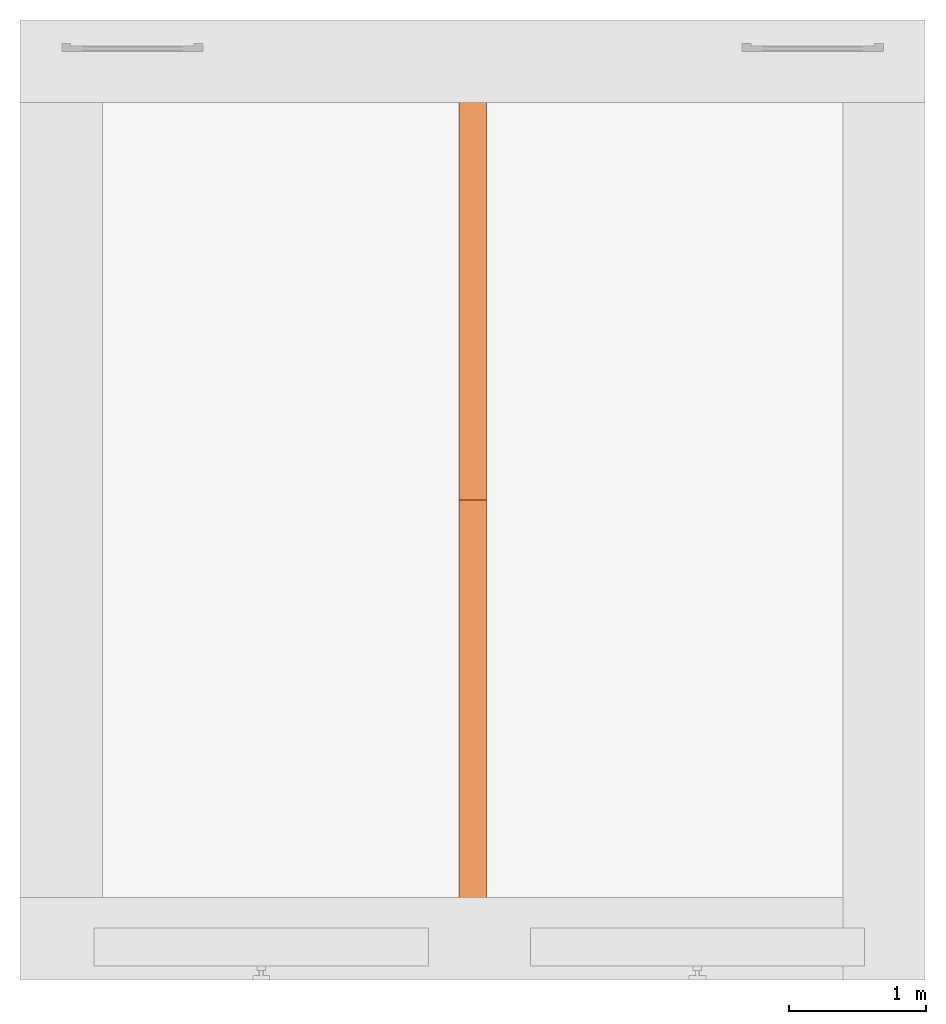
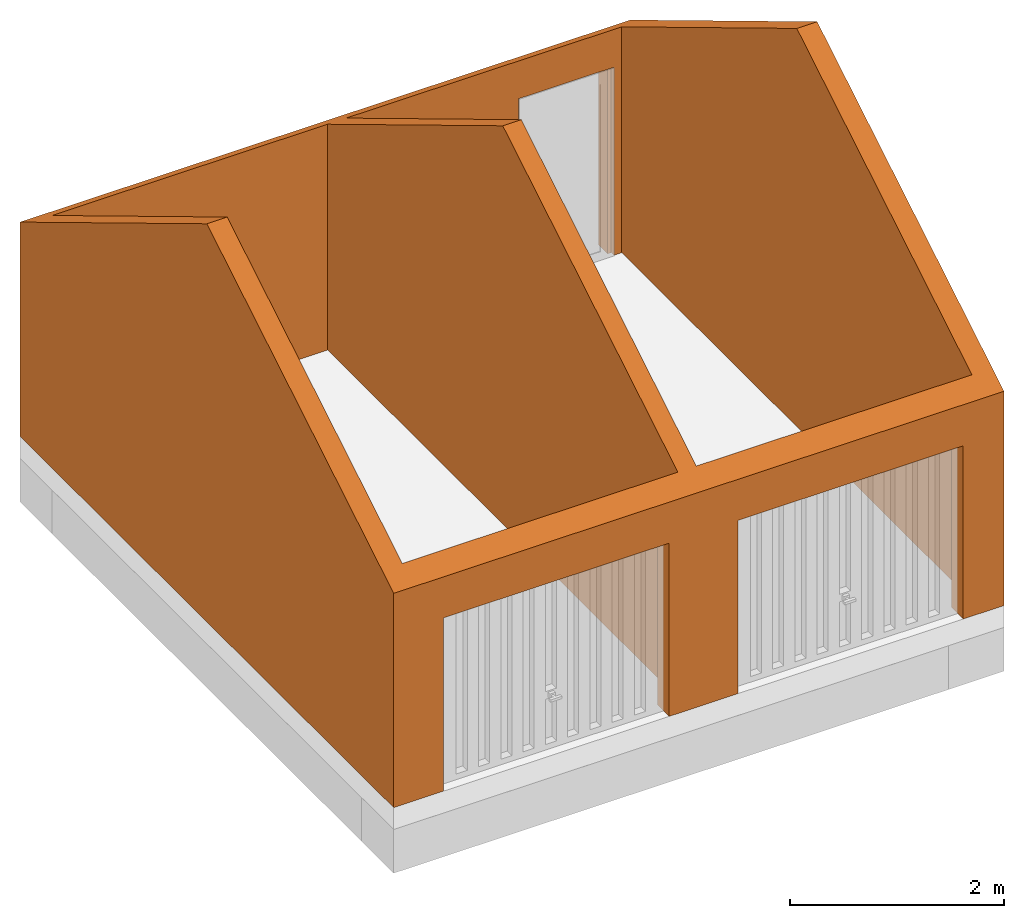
# One storey, part 5 of 6: 1 proxy.
"""IFC2X3 building model written with IfcOpenShell, lengths in millimetres."""

from ifc_helpers import new_model, entity, si_unit, converted_unit, direction, origin, origin_with_axes, place, context, project, spatial, faceted_brep, element, save


model = new_model("IFC2X3")

# Units and contexts
model_context = context("Model", 3, precision=1e-05, world=origin(), true_north=direction((0.0, 1.0, 0.0)))
ifc_project = project(units=[si_unit("LENGTHUNIT", "METRE", prefix="MILLI"), si_unit("AREAUNIT", "SQUARE_METRE"), si_unit("VOLUMEUNIT", "CUBIC_METRE"), converted_unit("PLANEANGLEUNIT", "DEGREE", entity("IfcPlaneAngleMeasure", 0.01745), si_unit("PLANEANGLEUNIT", "RADIAN"), dimensions=[0, 0, 0, 0, 0, 0, 0]), si_unit("SOLIDANGLEUNIT", "STERADIAN"), si_unit("MASSUNIT", "GRAM"), si_unit("TIMEUNIT", "SECOND"), si_unit("THERMODYNAMICTEMPERATUREUNIT", "DEGREE_CELSIUS"), si_unit("LUMINOUSINTENSITYUNIT", "LUMEN")], contexts=[model_context])

# Site, building, storey
site_placement = place(None, origin_with_axes())
site = spatial("IfcSite", under=ifc_project, at=site_placement, Name="Default Site", CompositionType="ELEMENT")
building_placement = place(site_placement, origin_with_axes())
building = spatial("IfcBuilding", under=site, at=building_placement, Name="Default Building", CompositionType="ELEMENT")
storey_placement = place(building_placement, origin_with_axes())
storey = spatial("IfcBuildingStorey", under=building, at=storey_placement, Name="soubassement", CompositionType="ELEMENT", Elevation=0.0)

# Proxy
proxy_placement = place(storey_placement, origin_with_axes())
element("IfcBuildingElementProxy", 1, at=proxy_placement, inside=storey, Name="Object", context=model_context, shape_type="Brep", body=[
    faceted_brep([(-3280.064822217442, -14143.58332180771, 2149.9999834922), (-3240.064860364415, -14143.58332180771, 2110.000021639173), (-2250.064970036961, -14143.58332180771, 2149.9999834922), (-2290.065051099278, -14143.58332180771, 7.334057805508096e-06), (-2290.065051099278, -14143.58332180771, 2110.000021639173), (-3240.064860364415, -13973.58332374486, 2110.000021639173), (-3240.064860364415, -14143.58332180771, 7.334057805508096e-06), (-3240.064860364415, -13973.58332374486, 7.334057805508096e-06), (-3280.064822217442, -14143.58332180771, 7.334057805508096e-06), (1719.935177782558, -13973.58332374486, 2110.000021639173), (2669.934987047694, -14143.58332180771, 2110.000021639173), (1719.935177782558, -14143.58332180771, 2110.000021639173), (-3585.064888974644, -14193.58332255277, 7.334057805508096e-06), (-3585.064888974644, -13973.58332374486, 2450.000055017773), (-3585.064888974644, -13973.58332374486, 7.334057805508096e-06), (-2290.065051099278, -13973.58332374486, 2110.000021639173), (2669.934987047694, -13973.58332374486, 2110.000021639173), (1719.935177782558, -13973.58332374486, 7.334057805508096e-06), (1719.935177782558, -14143.58332180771, 7.334057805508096e-06), (-2290.065051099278, -13973.58332374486, 7.334057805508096e-06), (-2250.064970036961, -14143.58332180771, 7.334057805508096e-06), (2709.934948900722, -14193.58332255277, 2149.9999834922), (1679.935096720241, -14143.58332180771, 2149.9999834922), (2709.934948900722, -14143.58332180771, 2149.9999834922), (2669.934987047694, -13973.58332374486, 7.334057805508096e-06), (2669.934987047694, -14143.58332180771, 7.334057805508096e-06), (1679.935096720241, -14143.58332180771, 7.334057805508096e-06), (2709.934948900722, -14193.58332255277, 7.334057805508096e-06), (-3280.064822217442, -14193.58332255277, 2149.9999834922), (-3365.064937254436, -14193.58333715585, 2270.446331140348), (-3365.064937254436, -14193.58333715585, 1550.818982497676), (2709.934948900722, -14143.58332180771, 7.334057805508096e-06), (3014.935015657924, -13973.58332374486, 7.334057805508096e-06), (3014.935015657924, -13973.58332374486, 2450.000055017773), (2794.934987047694, -14193.58332255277, 2582.189328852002), (-185.0649351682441, -14193.58332255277, 2582.189328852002), (-185.0649351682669, -14193.5833371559, 2370.185336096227), (3014.935062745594, -17473.58332374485, 4553.012268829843), (3014.935015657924, -14193.58332255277, 2582.189328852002), (2794.935063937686, -14193.5832703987, 2270.446331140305), (2794.935063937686, -14193.5832703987, 719.6273559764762), (-2250.064970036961, -14193.58332255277, 7.334057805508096e-06), (-385.0649381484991, -14193.58335175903, -0.0001022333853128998), (-385.0649381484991, -14193.5833371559, 1020.292616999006), (2794.935063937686, -14193.58321824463, -0.0001022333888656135), (-3365.064860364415, -14193.58332255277, 2582.189328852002), (-385.0649381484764, -14193.58332255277, 2582.189328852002), (2794.935063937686, -14193.5832703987, 2564.130138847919), (2794.935063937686, -14193.5832703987, 2510.967125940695), (-2250.064970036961, -14193.58332255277, 2149.9999834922), (-3365.064937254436, -14193.58335175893, -0.0001022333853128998), (-3280.064822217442, -14193.58332255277, 7.334057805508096e-06), (2794.935063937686, -14193.5832703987, 2567.085017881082), (-3585.064993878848, -20753.58332374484, 2582.189328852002), (-3585.064888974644, -14193.58332255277, 2582.189328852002), (-3365.064937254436, -17473.58332314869, 4553.012268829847), (1679.935096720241, -14193.58332255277, 7.334057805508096e-06), (-185.0649351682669, -14193.58335175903, -0.0001022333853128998), (-385.0649381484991, -14193.5833371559, 2149.9999834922), (3014.935062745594, -20973.58342805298, -0.0001022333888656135), (3014.935015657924, -14193.58332255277, 7.334057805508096e-06), (1679.935096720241, -14193.58332255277, 2149.9999834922), (135.7350482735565, -20973.58332255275, 1981.199987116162), (135.7350482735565, -20973.58332255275, 7.334057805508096e-06), (135.7350482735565, -20753.58332374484, 7.334057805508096e-06), (2574.134959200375, -20973.58332255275, 1981.199987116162), (135.7350482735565, -20753.58332374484, 1981.199987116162), (2574.134959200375, -20753.58332374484, 1981.199987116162), (2574.134959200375, -20753.58332374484, 7.334057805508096e-06), (2794.93512056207, -20753.58332374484, 7.334057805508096e-06), (2794.93512056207, -20973.58332255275, 7.334057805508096e-06), (2574.134959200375, -20973.58332255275, 7.334057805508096e-06), (-3585.064993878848, -20973.58332255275, 7.334057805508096e-06), (-3044.264899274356, -20973.58332255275, 1981.199987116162), (-3585.064993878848, -20973.58332255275, 2450.000055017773), (-3044.264899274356, -20973.58332255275, 7.334057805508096e-06), (-605.8649436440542, -20973.58332255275, 1981.199987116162), (2794.93512056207, -20973.58332255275, 2450.000055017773), (-385.0649368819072, -20753.58332374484, 2582.189328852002), (-3365.064965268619, -20753.58332374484, 2582.189328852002), (-385.0649381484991, -20753.58330914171, 589.8718670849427), (-257.2085892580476, -20753.58330914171, 931.4427929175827), (-338.5161179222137, -20753.58330914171, 1981.199987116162), (-385.0649381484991, -20753.58330914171, 1981.199987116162), (-3585.064993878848, -20753.58332374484, 7.334057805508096e-06), (-3585.064936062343, -17473.58332314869, 4553.012268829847), (-185.0649432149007, -20753.58332374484, 2582.189328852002), (3014.935062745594, -20973.58342805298, 2450.000005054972), (2794.93512056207, -20753.58332374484, 2582.189328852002), (2794.935092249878, -20753.58332374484, 2454.289336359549), (2794.935092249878, -20753.58332374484, 83.78779285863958), (-3365.064937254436, -20753.58330914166, 2560.722630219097), (-3365.064937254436, -20753.58330914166, 2546.654581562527), (-3365.064937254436, -20753.58330914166, 2337.70399955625), (-3365.064937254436, -20753.58330914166, 1531.742402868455), (-3365.064937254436, -20753.58329453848, -0.0001022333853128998), (-3044.264899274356, -20753.58332374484, 7.334057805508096e-06), (-3365.064937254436, -20753.58330914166, 2537.809063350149), (-605.8649436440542, -20973.58332255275, 7.334057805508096e-06), (-605.8649436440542, -20753.58332374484, 7.334057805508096e-06), (-185.0649351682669, -20753.58329453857, -0.0001022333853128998), (-385.0649381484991, -20753.58329453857, -0.0001022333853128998), (-605.8649436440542, -20753.58332374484, 1981.199987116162), (-3044.264899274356, -20753.58332374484, 1981.199987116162), (-202.1724062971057, -14193.583323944, 2361.315685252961), (-385.0649381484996, -14193.58332472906, 2348.75902033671), (-385.0649381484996, -14193.58332751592, 2303.09269860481), (-205.5405811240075, -14193.58332658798, 2317.829358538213), (-185.0649351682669, -20753.58330914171, 1124.176082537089), (-385.0649381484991, -20753.58330805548, 2065.320401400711), (-385.0649381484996, -20753.5833055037, 2269.946514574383), (-185.0649351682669, -20753.58330914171, 1981.199987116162), (-185.0649351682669, -20753.58330847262, 2033.016093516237), (-185.0649351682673, -20753.58330574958, 2250.431338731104), (-185.0649351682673, -14193.58332648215, 2319.510147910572), (-185.0649351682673, -14193.58332387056, 2362.490215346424), (-385.0649381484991, -14193.5833371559, 2355.956879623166), (-201.5764014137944, -14193.5833371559, 2369.010672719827), (-185.0649351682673, -14193.5833371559, 2149.9999834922), (-218.5395791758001, -14193.5833371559, 2149.9999834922), (-302.5428433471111, -14193.5833371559, 1065.438291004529), (-185.0649351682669, -14193.5833371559, 1129.707373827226), (-344.524371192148, -20753.58330814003, 2058.77222671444), (-360.6964233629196, -20753.58330553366, 2267.568735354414), (-185.0649351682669, -17473.58332314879, 4553.012268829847), (-385.0649381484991, -17473.58332314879, 4553.012268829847), (2794.935092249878, -20760.85832600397, 81.01707996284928), (2794.935063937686, -17473.58332374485, 4553.012268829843), (-3388.763990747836, -14193.58333715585, 2304.028220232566)], [[[0, 1, 2]], [[3, 2, 4]], [[5, 6, 7]], [[1, 8, 6]], [[9, 10, 11]], [[12, 13, 14]], [[4, 5, 15]], [[9, 16, 10]], [[8, 1, 0]], [[17, 11, 18]], [[19, 3, 4]], [[4, 2, 1]], [[17, 9, 11]], [[19, 4, 15]], [[4, 1, 5]], [[2, 3, 20]], [[5, 1, 6]], [[21, 22, 23]], [[24, 10, 16]], [[24, 25, 10]], [[23, 11, 10]], [[18, 22, 26]], [[27, 21, 23]], [[28, 29, 30]], [[31, 10, 25]], [[32, 16, 33]], [[27, 23, 31]], [[34, 35, 36]], [[33, 34, 37, 38]], [[39, 38, 40]], [[41, 42, 43]], [[40, 38, 44]], [[32, 33, 38]], [[13, 45, 33]], [[33, 45, 46]], [[38, 47, 48]], [[41, 49, 2]], [[3, 19, 20]], [[28, 30, 50, 51]], [[19, 18, 26, 20]], [[32, 27, 31]], [[17, 15, 9]], [[33, 35, 34]], [[33, 46, 35]], [[20, 26, 41]], [[18, 19, 17]], [[22, 11, 23]], [[52, 38, 47]], [[22, 18, 11]], [[9, 13, 16]], [[23, 10, 31]], [[5, 13, 15]], [[15, 13, 9]], [[13, 12, 53, 54]], [[24, 31, 25]], [[15, 17, 19]], [[14, 8, 12]], [[14, 6, 8]], [[13, 7, 14]], [[33, 16, 13]], [[6, 14, 7]], [[12, 8, 51, 50]], [[51, 0, 28]], [[13, 54, 55, 45]], [[51, 8, 0]], [[28, 2, 49]], [[28, 0, 2]], [[41, 26, 56, 57, 42]], [[41, 43, 58, 49]], [[32, 38, 59, 60]], [[41, 2, 20]], [[21, 61, 22]], [[56, 22, 61]], [[7, 13, 5]], [[31, 24, 32]], [[48, 38, 39]], [[56, 26, 22]], [[16, 32, 24]], [[27, 32, 60, 44]], [[62, 63, 64]], [[65, 66, 67]], [[68, 69, 70]], [[71, 67, 68]], [[62, 64, 66]], [[71, 65, 67]], [[65, 62, 66]], [[68, 70, 71]], [[72, 73, 74]], [[73, 72, 75]], [[76, 77, 73]], [[62, 77, 76]], [[74, 78, 79]], [[80, 81, 82, 83]], [[84, 75, 72]], [[74, 79, 85, 53]], [[65, 77, 62]], [[65, 70, 59, 77]], [[86, 77, 87, 88]], [[69, 67, 88, 89, 90]], [[91, 53, 92]], [[72, 74, 53]], [[93, 53, 94]], [[84, 95, 96, 75]], [[53, 92, 97]], [[94, 53, 95]], [[72, 53, 12, 84]], [[63, 76, 98]], [[74, 86, 78]], [[97, 53, 93]], [[99, 63, 98]], [[100, 64, 63, 99, 101]], [[70, 65, 71]], [[67, 69, 68]], [[98, 102, 99]], [[98, 76, 102]], [[76, 103, 102]], [[76, 73, 103]], [[73, 96, 103]], [[73, 75, 96]], [[76, 63, 62]], [[74, 73, 77]], [[77, 86, 74]], [[81, 80, 101, 100]], [[104, 105, 106, 107]], [[100, 108, 81]], [[49, 58, 106]], [[92, 109, 83, 102, 97]], [[79, 78, 110, 91]], [[66, 111, 112]], [[64, 100, 108, 66]], [[66, 112, 113, 67]], [[91, 110, 109, 92]], [[49, 106, 105, 28]], [[67, 113, 86, 88]], [[114, 107, 104, 115]], [[28, 116, 46, 45, 29]], [[46, 35, 117, 116]], [[107, 114, 118, 119]], [[99, 80, 101]], [[120, 43, 58, 119]], [[66, 108, 111]], [[119, 118, 121, 120]], [[106, 107, 119, 58]], [[116, 117, 104, 105]], [[61, 121, 57, 56]], [[35, 36, 117]], [[28, 105, 116]], [[111, 82, 81, 108]], [[42, 43, 120]], [[120, 121, 57, 42]], [[122, 112, 113, 123]], [[123, 113, 86, 78]], [[61, 118, 121]], [[102, 83, 80, 99]], [[106, 105, 104, 107]], [[78, 42, 101, 80, 83, 109, 110]], [[57, 100, 101]], [[124, 35, 46]], [[86, 35, 124]], [[100, 35, 86, 113, 112, 111, 108]], [[122, 82, 111, 112]], [[124, 46, 125]], [[57, 101, 42]], [[86, 125, 78]], [[86, 124, 125]], [[109, 83, 82, 122]], [[46, 78, 125]], [[42, 78, 46, 116, 105, 106, 58, 43]], [[35, 100, 57, 121, 118, 114, 115, 36]], [[36, 115, 104, 117]], [[27, 44, 40]], [[34, 89, 88]], [[34, 36, 115, 52]], [[47, 114, 118, 61, 48]], [[44, 69, 90, 34, 52, 47, 48, 39, 40]], [[34, 90, 89]], [[21, 39, 48, 61]], [[27, 40, 39, 21]], [[126, 69, 70]], [[52, 115, 114, 47]], [[48, 47, 38]], [[59, 87, 77]], [[87, 38, 37]], [[37, 88, 87]], [[77, 89, 90, 126]], [[70, 69, 44, 60]], [[88, 37, 127]], [[59, 38, 87]], [[34, 127, 37]], [[126, 90, 69]], [[70, 60, 59]], [[34, 88, 127]], [[110, 123, 78]], [[30, 12, 128, 29]], [[103, 93, 97, 102]], [[96, 95, 94]], [[45, 29, 128]], [[96, 94, 93, 103]], [[109, 122, 123, 110]], [[45, 95, 50, 30, 29]], [[79, 45, 55]], [[79, 55, 85]], [[50, 95, 84]], [[97, 92, 53]], [[54, 53, 85]], [[95, 45, 79, 91, 92, 97, 93, 94]], [[30, 50, 12]], [[50, 84, 12]], [[55, 54, 85]]]),
])

save(model, "model.ifc")
